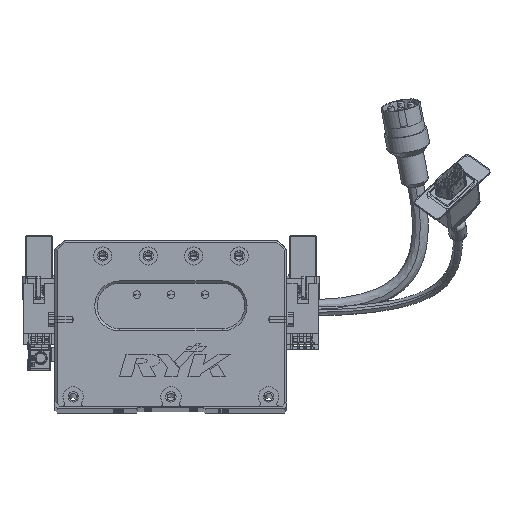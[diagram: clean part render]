
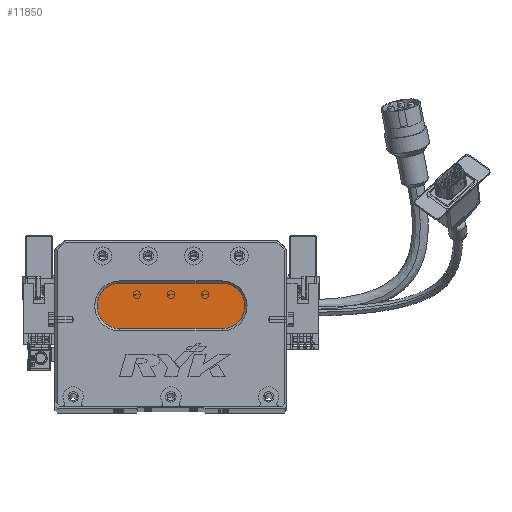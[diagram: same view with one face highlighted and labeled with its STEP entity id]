
A CAD part, top view. The second image highlights one B-rep face of the part: STEP entity #11850.
In plain terms, the highlighted planar face has unit normal (0, 0, 1) as drawn and (0, 0, -1) by its records, which use the part's own axes.
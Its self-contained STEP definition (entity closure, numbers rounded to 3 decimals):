
#1490 = ORIENTED_EDGE ( 'NONE', *, *, #47724, .T. ) ;
#2015 = DIRECTION ( 'NONE',  ( -1., 0., 0. ) ) ;
#2259 = VECTOR ( 'NONE', #48459, 1000. ) ;
#2499 = CARTESIAN_POINT ( 'NONE',  ( 73.5, 34., 13. ) ) ;
#3484 = ORIENTED_EDGE ( 'NONE', *, *, #7227, .T. ) ;
#3630 = ORIENTED_EDGE ( 'NONE', *, *, #42413, .T. ) ;
#3902 = DIRECTION ( 'NONE',  ( 0., 0., -1. ) ) ;
#6084 = AXIS2_PLACEMENT_3D ( 'NONE', #37027, #3902, #42583 ) ;
#7227 = EDGE_CURVE ( 'NONE', #59048, #28903, #53734, .T. ) ;
#7533 = DIRECTION ( 'NONE',  ( 1., 0., 0. ) ) ;
#8086 = CARTESIAN_POINT ( 'NONE',  ( 73.5, 44., 13. ) ) ;
#9373 = CARTESIAN_POINT ( 'NONE',  ( 73.5, 34., 13. ) ) ;
#10529 = VECTOR ( 'NONE', #7533, 1000. ) ;
#11850 = ADVANCED_FACE ( 'NONE', ( #27445 ), #69166, .T. ) ;
#13428 = VERTEX_POINT ( 'NONE', #2499 ) ;
#18346 = CARTESIAN_POINT ( 'NONE',  ( 28.5, 44., 13. ) ) ;
#18653 = CARTESIAN_POINT ( 'NONE',  ( 73.5, 54., 13. ) ) ;
#19129 = AXIS2_PLACEMENT_3D ( 'NONE', #18346, #62995, #56946 ) ;
#26436 = AXIS2_PLACEMENT_3D ( 'NONE', #62691, #40525, #35881 ) ;
#27445 = FACE_OUTER_BOUND ( 'NONE', #56070, .T. ) ;
#28903 = VERTEX_POINT ( 'NONE', #66011 ) ;
#29748 = CIRCLE ( 'NONE', #32480, 10. ) ;
#32470 = EDGE_CURVE ( 'NONE', #28903, #13428, #29748, .T. ) ;
#32480 = AXIS2_PLACEMENT_3D ( 'NONE', #8086, #63360, #2015 ) ;
#35881 = DIRECTION ( 'NONE',  ( -1., 0., 0. ) ) ;
#37027 = CARTESIAN_POINT ( 'NONE',  ( 28.5, 44., 13. ) ) ;
#37535 = ORIENTED_EDGE ( 'NONE', *, *, #32470, .T. ) ;
#40525 = DIRECTION ( 'NONE',  ( 0., 0., -1. ) ) ;
#42413 = EDGE_CURVE ( 'NONE', #66561, #59048, #69580, .T. ) ;
#42583 = DIRECTION ( 'NONE',  ( -1., 0., 0. ) ) ;
#42942 = LINE ( 'NONE', #9373, #2259 ) ;
#45204 = ORIENTED_EDGE ( 'NONE', *, *, #52538, .T. ) ;
#47055 = VERTEX_POINT ( 'NONE', #53151 ) ;
#47724 = EDGE_CURVE ( 'NONE', #13428, #47055, #42942, .T. ) ;
#47987 = CARTESIAN_POINT ( 'NONE',  ( 18.5, 44., 13. ) ) ;
#48459 = DIRECTION ( 'NONE',  ( -1., 0., 0. ) ) ;
#52538 = EDGE_CURVE ( 'NONE', #47055, #66561, #60742, .T. ) ;
#53151 = CARTESIAN_POINT ( 'NONE',  ( 28.5, 34., 13. ) ) ;
#53734 = LINE ( 'NONE', #18653, #10529 ) ;
#56070 = EDGE_LOOP ( 'NONE', ( #37535, #1490, #45204, #3630, #3484 ) ) ;
#56946 = DIRECTION ( 'NONE',  ( -1., 0., 0. ) ) ;
#59048 = VERTEX_POINT ( 'NONE', #68947 ) ;
#60742 = CIRCLE ( 'NONE', #19129, 10. ) ;
#62691 = CARTESIAN_POINT ( 'NONE',  ( 73.5, 44., 13. ) ) ;
#62995 = DIRECTION ( 'NONE',  ( 0., 0., -1. ) ) ;
#63360 = DIRECTION ( 'NONE',  ( 0., 0., -1. ) ) ;
#66011 = CARTESIAN_POINT ( 'NONE',  ( 73.5, 54., 13. ) ) ;
#66561 = VERTEX_POINT ( 'NONE', #47987 ) ;
#68947 = CARTESIAN_POINT ( 'NONE',  ( 28.5, 54., 13. ) ) ;
#69166 = PLANE ( 'NONE',  #26436 ) ;
#69580 = CIRCLE ( 'NONE', #6084, 10. ) ;
